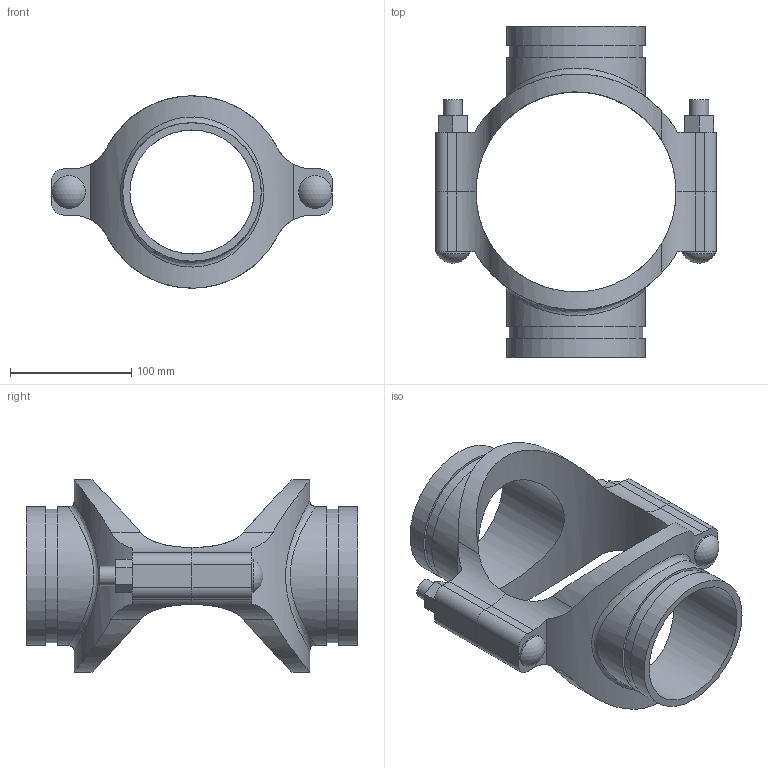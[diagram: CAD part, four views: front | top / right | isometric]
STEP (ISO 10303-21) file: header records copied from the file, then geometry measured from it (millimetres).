
FILE_DESCRIPTION(/* description */ ('VIC MECH-T BRANCH OUTLET CROSS STYLE 920N (GRVD)','CAx-IF Rec.Pracs.---Representation and Presentation of Product Manufacturing Information (PMI)---4.0---2014-10-13'),/* implementation_level */ '2;1');
FILE_NAME(/* name */ 'C:\Users\Vjadhav\AppData\Roaming\Autodesk\ApplicationPlugins\Back Up\Victaulic_IPS_Mechanical-Cross Outlet_Style 920N (OGS)\Victaulic_IPS_Mechanical-Cross Outlet_06.0 (165.1)x04.0x04.0 (150x100x100).stp',/* time_stamp */ '2020-08-06T19:45:52+05:00',/* author */ ('Vjadhav'),/* organization */ ('Victaulic'),/* preprocessor_version */ 'ST-DEVELOPER v17.2',/* originating_system */ 'Autodesk Inventor 2019',/* authorisation */ '');
FILE_SCHEMA (('AP242_MANAGED_MODEL_BASED_3D_ENGINEERING_MIM_LF { 1 0 10303 442 1 1 4 }'));
Length unit declared in the file: inch
Products named in the file (3): 920NG-06.0 (165.1)x04.0x04.0; 920G-06.0 (165.1)x04.0; 920G-06.0 (165.1)x04.0_1
Assembly tree (2 placements, depth 2):
  920NG-06.0 (165.1)x04.0x04.0
    920G-06.0 (165.1)x04.0
    920G-06.0 (165.1)x04.0_1
Bounding box: 231.9 x 273.3 x 158.69 mm (x, y, z)
Volume: 889130.3 mm3; surface area: 215119.3 mm2
Topology: 2 solids, 2 shells, 104 faces, 262 edges, 178 vertices
Faces by surface type: plane 54, cylinder 46, sphere 2, bspline 2
Full cylindrical faces by diameter (mm): 15.875 x4, 27.381 x2, 102.394 x2, 110.084 x2, 114.3 x4
Entity records: 4270 total; most frequent: CARTESIAN_POINT 1497, DIRECTION 532, ORIENTED_EDGE 524, EDGE_CURVE 262, AXIS2_PLACEMENT_3D 193, VERTEX_POINT 178, LINE 146, VECTOR 146
